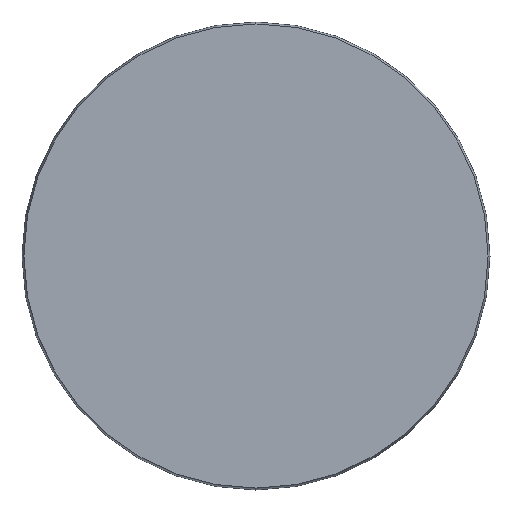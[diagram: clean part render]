
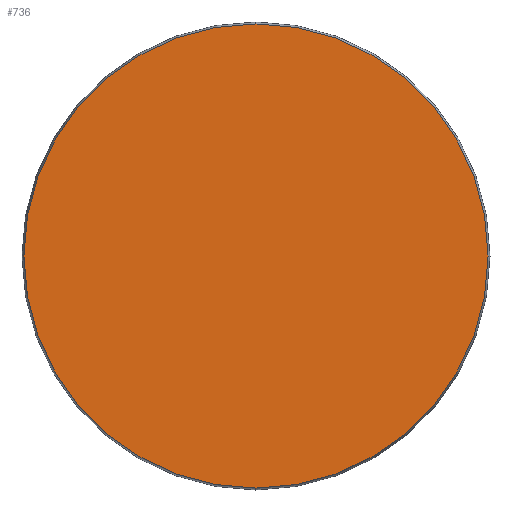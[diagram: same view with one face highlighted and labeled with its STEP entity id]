
A CAD part, left-side view. The second image highlights one B-rep face of the part: STEP entity #736.
In plain terms, the highlighted planar face has unit normal (-1, 0, 0).
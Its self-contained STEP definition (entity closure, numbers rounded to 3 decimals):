
#37 = EDGE_LOOP ( 'NONE', ( #94, #82 ) ) ;
#82 = ORIENTED_EDGE ( 'NONE', *, *, #724, .T. ) ;
#84 = VERTEX_POINT ( 'NONE', #192 ) ;
#94 = ORIENTED_EDGE ( 'NONE', *, *, #722, .T. ) ;
#144 = VERTEX_POINT ( 'NONE', #199 ) ;
#192 = CARTESIAN_POINT ( 'NONE',  ( 0., 0., 6. ) ) ;
#199 = CARTESIAN_POINT ( 'NONE',  ( 0., 0., -6. ) ) ;
#242 = DIRECTION ( 'NONE',  ( 0., 0., 1. ) ) ;
#248 = CARTESIAN_POINT ( 'NONE',  ( 0., 0., 0. ) ) ;
#255 = DIRECTION ( 'NONE',  ( -1., 0., 0. ) ) ;
#288 = FACE_OUTER_BOUND ( 'NONE', #37, .T. ) ;
#301 = DIRECTION ( 'NONE',  ( 0., 0., 1. ) ) ;
#303 = DIRECTION ( 'NONE',  ( -1., 0., 0. ) ) ;
#317 = CARTESIAN_POINT ( 'NONE',  ( 0., 0., 0. ) ) ;
#342 = PLANE ( 'NONE',  #915 ) ;
#343 = CARTESIAN_POINT ( 'NONE',  ( 0., 6., 0. ) ) ;
#360 = DIRECTION ( 'NONE',  ( 0., 0., -1. ) ) ;
#374 = DIRECTION ( 'NONE',  ( 1., 0., 0. ) ) ;
#722 = EDGE_CURVE ( 'NONE', #84, #144, #859, .T. ) ;
#724 = EDGE_CURVE ( 'NONE', #144, #84, #928, .T. ) ;
#736 = ADVANCED_FACE ( 'NONE', ( #288 ), #342, .F. ) ;
#859 = CIRCLE ( 'NONE', #860, 6. ) ;
#860 = AXIS2_PLACEMENT_3D ( 'NONE', #248, #255, #242 ) ;
#914 = AXIS2_PLACEMENT_3D ( 'NONE', #317, #303, #301 ) ;
#915 = AXIS2_PLACEMENT_3D ( 'NONE', #343, #374, #360 ) ;
#928 = CIRCLE ( 'NONE', #914, 6. ) ;
